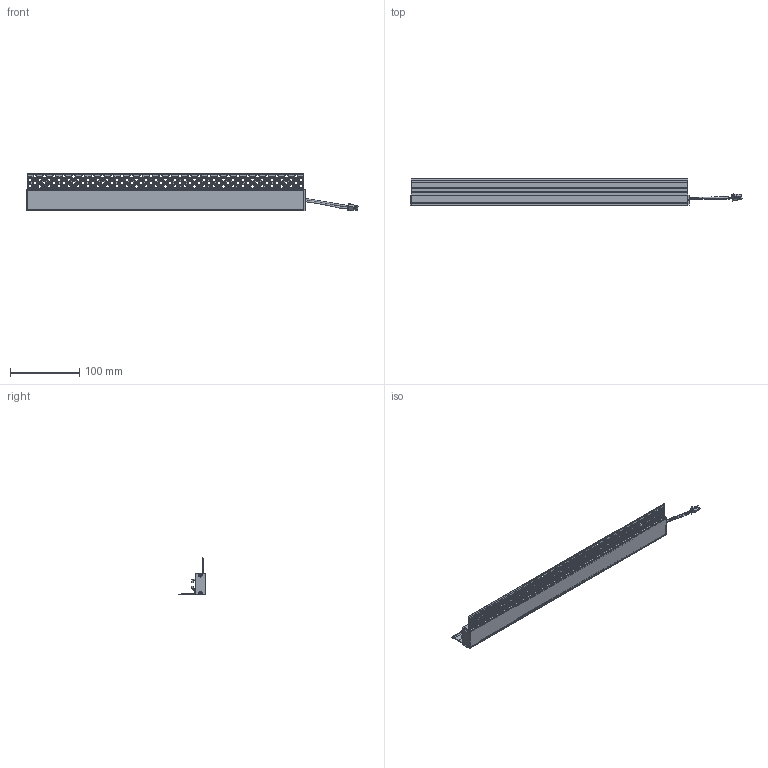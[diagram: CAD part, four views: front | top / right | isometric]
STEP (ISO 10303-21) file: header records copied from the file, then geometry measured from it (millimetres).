
FILE_DESCRIPTION (( 'STEP AP214' ), '1' );
FILE_NAME ('SavonaCompleto.STEP', '2022-02-18T10:42:07', ( '' ), ( '' ), 'SwSTEP 2.0', 'SolidWorks 2021', '' );
FILE_SCHEMA (( 'AUTOMOTIVE_DESIGN' ));
Length unit declared in the file: millimetre
Products named in the file (1): SavonaCompleto
Bounding box: 480.15 x 38.09 x 54.85 mm (x, y, z)
Surface area: 135184.5 mm2 (no closed solid volume)
Topology: 0 solids, 7 shells, 1733 faces, 5467 edges, 3626 vertices
Faces by surface type: cylinder 887, plane 818, bspline 17, cone 8, sphere 3
Entity records: 97975 total; most frequent: CARTESIAN_POINT 36123, ORIENTED_EDGE 10926, DIRECTION 6803, EDGE_CURVE 5463, VERTEX_POINT 3626, AXIS2_PLACEMENT_3D 2296, VECTOR 2211, LINE 2211
